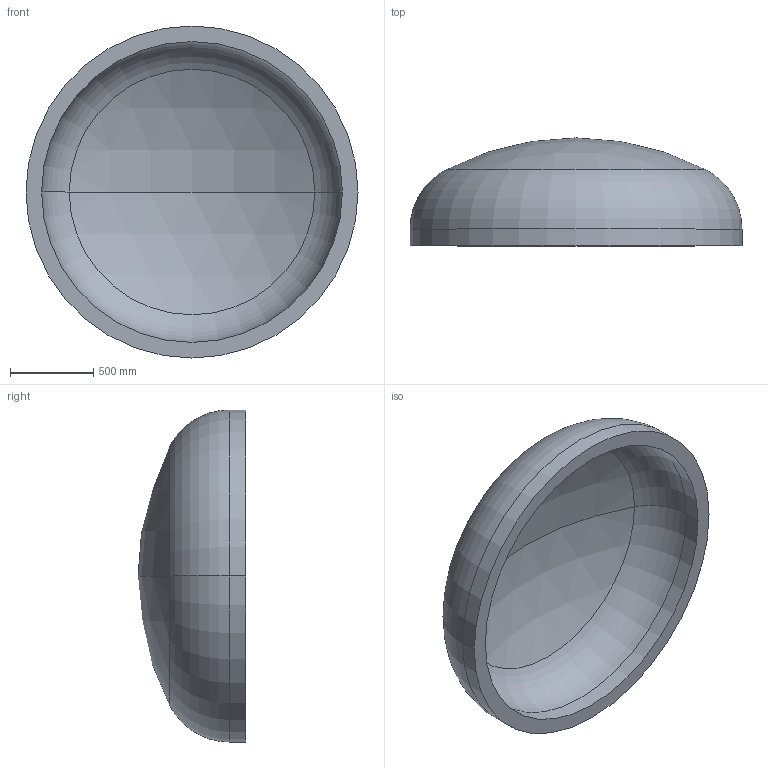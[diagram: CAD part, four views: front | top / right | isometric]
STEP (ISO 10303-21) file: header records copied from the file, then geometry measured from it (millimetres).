
FILE_DESCRIPTION (( 'STEP AP203' ), '1' );
FILE_NAME ('DIN 28013 Korbbogenform_-_Boden DIN 28013 - 2000 x 100 - I - s=94.step', '2016-07-01T14:08:02', ( '' ), ( '' ), 'SwSTEP 2.0', 'SolidWorks 2013', '' );
FILE_SCHEMA (( 'CONFIG_CONTROL_DESIGN' ));
Length unit declared in the file: millimetre
Products named in the file (1): DIN 28013 Korbbogenform_-_Boden DIN 28013 - 2000 x 100 - I - s=94
Bounding box: 2000 x 649.94 x 2000 mm (x, y, z)
Volume: 441767783.7 mm3; surface area: 9980678.3 mm2
Topology: 1 solids, 1 shells, 13 faces, 24 edges, 14 vertices
Faces by surface type: torus 4, cylinder 4, sphere 4, plane 1
Entity records: 407 total; most frequent: DIRECTION 72, CARTESIAN_POINT 52, ORIENTED_EDGE 48, AXIS2_PLACEMENT_3D 34, EDGE_CURVE 24, CIRCLE 20, EDGE_LOOP 14, VERTEX_POINT 14
